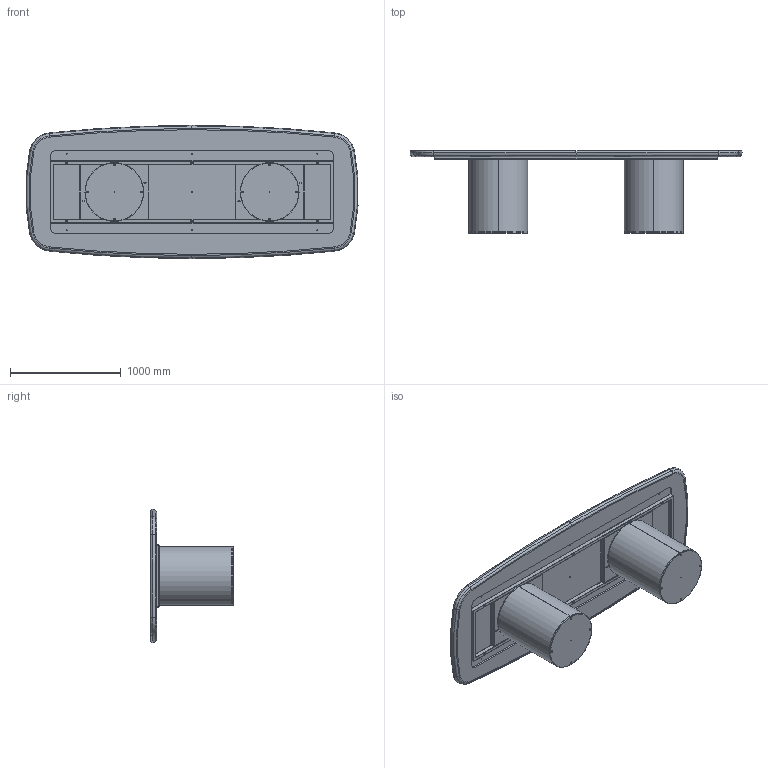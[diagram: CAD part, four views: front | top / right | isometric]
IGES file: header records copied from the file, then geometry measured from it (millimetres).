
Start section: SolidWorks IGES file using analytic representation for surfaces
Global section: file name: Y:\eforma\TECNICO\SOLIDWORKS\E-FORMA\1-TAVOLI\CILINDRO\02 parts\CI44K_Cilindro_300x120_King.IGS; native system: SolidWorks 2022; preprocessor: SolidWorks 2022; author: eforma.tech; date: 240801.150035; units: millimetre
Bounding box: 2991.72 x 746 x 1200 mm (x, y, z)
Volume: 160453045.2 mm3; surface area: 22769155 mm2
Topology: 51 solids, 51 shells, 1685 faces, 3802 edges, 2147 vertices
Faces by surface type: revolution 1035, plane 650
